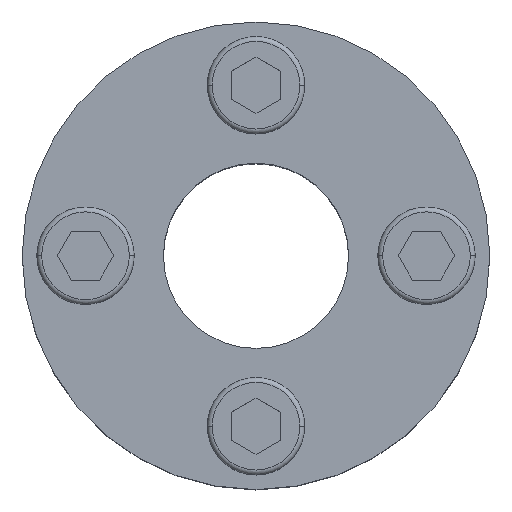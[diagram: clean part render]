
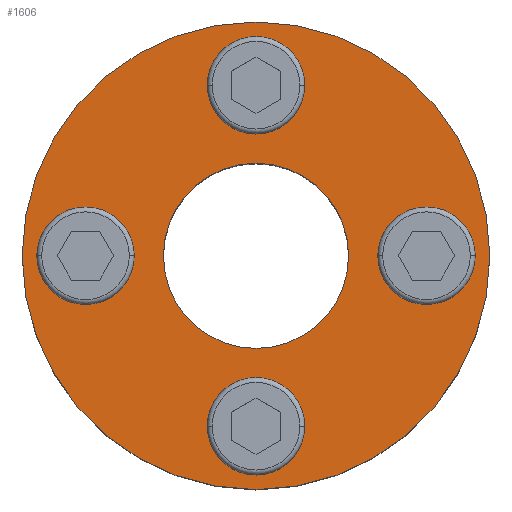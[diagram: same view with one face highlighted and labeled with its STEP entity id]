
A CAD part, top view. The second image highlights one B-rep face of the part: STEP entity #1606.
In plain terms, the highlighted planar face has unit normal (0, 0, 1).
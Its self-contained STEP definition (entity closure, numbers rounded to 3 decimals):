
#2 = EDGE_CURVE ( 'NONE', #352, #1402, #986, .T. ) ;
#6 = CARTESIAN_POINT ( 'NONE',  ( -5., -17.5, 0. ) ) ;
#9 = AXIS2_PLACEMENT_3D ( 'NONE', #1308, #792, #644 ) ;
#45 = CIRCLE ( 'NONE', #1392, 5. ) ;
#62 = EDGE_CURVE ( 'NONE', #454, #266, #965, .T. ) ;
#81 = CARTESIAN_POINT ( 'NONE',  ( 0., 17.5, 0. ) ) ;
#93 = EDGE_CURVE ( 'NONE', #474, #1383, #1274, .T. ) ;
#119 = ORIENTED_EDGE ( 'NONE', *, *, #1069, .F. ) ;
#141 = ORIENTED_EDGE ( 'NONE', *, *, #62, .F. ) ;
#144 = DIRECTION ( 'NONE',  ( -1., 0., 0. ) ) ;
#145 = DIRECTION ( 'NONE',  ( 0., 0., -1. ) ) ;
#161 = EDGE_LOOP ( 'NONE', ( #119, #303 ) ) ;
#166 = DIRECTION ( 'NONE',  ( 0., 0., 1. ) ) ;
#234 = CARTESIAN_POINT ( 'NONE',  ( 22.5, 0., 0. ) ) ;
#237 = DIRECTION ( 'NONE',  ( 0., 0., 1. ) ) ;
#259 = DIRECTION ( 'NONE',  ( 1., 0., 0. ) ) ;
#266 = VERTEX_POINT ( 'NONE', #1516 ) ;
#283 = DIRECTION ( 'NONE',  ( -1., 0., 0. ) ) ;
#293 = CARTESIAN_POINT ( 'NONE',  ( 0., 17.5, 0. ) ) ;
#295 = CARTESIAN_POINT ( 'NONE',  ( 0., 0., 0. ) ) ;
#301 = EDGE_LOOP ( 'NONE', ( #1314, #1687 ) ) ;
#303 = ORIENTED_EDGE ( 'NONE', *, *, #2, .F. ) ;
#308 = AXIS2_PLACEMENT_3D ( 'NONE', #293, #676, #581 ) ;
#352 = VERTEX_POINT ( 'NONE', #518 ) ;
#355 = EDGE_LOOP ( 'NONE', ( #723, #629 ) ) ;
#366 = AXIS2_PLACEMENT_3D ( 'NONE', #1187, #1223, #455 ) ;
#374 = VERTEX_POINT ( 'NONE', #1531 ) ;
#376 = ORIENTED_EDGE ( 'NONE', *, *, #997, .F. ) ;
#396 = EDGE_CURVE ( 'NONE', #1383, #474, #1498, .T. ) ;
#411 = VERTEX_POINT ( 'NONE', #6 ) ;
#412 = CARTESIAN_POINT ( 'NONE',  ( 0., 0., 0. ) ) ;
#424 = DIRECTION ( 'NONE',  ( 1., 0., 0. ) ) ;
#434 = FACE_BOUND ( 'NONE', #1023, .T. ) ;
#439 = CARTESIAN_POINT ( 'NONE',  ( 12.5, 0., 0. ) ) ;
#449 = DIRECTION ( 'NONE',  ( -1., 0., 0. ) ) ;
#450 = ORIENTED_EDGE ( 'NONE', *, *, #584, .F. ) ;
#452 = ORIENTED_EDGE ( 'NONE', *, *, #816, .F. ) ;
#454 = VERTEX_POINT ( 'NONE', #1058 ) ;
#455 = DIRECTION ( 'NONE',  ( 1., 0., 0. ) ) ;
#463 = AXIS2_PLACEMENT_3D ( 'NONE', #1273, #237, #874 ) ;
#469 = VERTEX_POINT ( 'NONE', #439 ) ;
#474 = VERTEX_POINT ( 'NONE', #805 ) ;
#491 = CARTESIAN_POINT ( 'NONE',  ( 5., -17.5, 0. ) ) ;
#494 = EDGE_LOOP ( 'NONE', ( #452, #376 ) ) ;
#518 = CARTESIAN_POINT ( 'NONE',  ( -12.5, 0., 0. ) ) ;
#519 = CIRCLE ( 'NONE', #463, 5. ) ;
#529 = CARTESIAN_POINT ( 'NONE',  ( 17.5, 0., 0. ) ) ;
#537 = CIRCLE ( 'NONE', #1118, 9.5 ) ;
#545 = AXIS2_PLACEMENT_3D ( 'NONE', #1575, #1294, #144 ) ;
#565 = VERTEX_POINT ( 'NONE', #234 ) ;
#581 = DIRECTION ( 'NONE',  ( -1., 0., 0. ) ) ;
#584 = EDGE_CURVE ( 'NONE', #266, #454, #715, .T. ) ;
#592 = CIRCLE ( 'NONE', #793, 5. ) ;
#629 = ORIENTED_EDGE ( 'NONE', *, *, #701, .F. ) ;
#644 = DIRECTION ( 'NONE',  ( 1., 0., 0. ) ) ;
#647 = AXIS2_PLACEMENT_3D ( 'NONE', #81, #1511, #1639 ) ;
#652 = DIRECTION ( 'NONE',  ( 0., 0., 1. ) ) ;
#676 = DIRECTION ( 'NONE',  ( 0., 0., 1. ) ) ;
#701 = EDGE_CURVE ( 'NONE', #565, #469, #1075, .T. ) ;
#715 = CIRCLE ( 'NONE', #647, 5. ) ;
#723 = ORIENTED_EDGE ( 'NONE', *, *, #807, .F. ) ;
#736 = FACE_BOUND ( 'NONE', #494, .T. ) ;
#777 = FACE_BOUND ( 'NONE', #920, .T. ) ;
#792 = DIRECTION ( 'NONE',  ( 0., 0., 1. ) ) ;
#793 = AXIS2_PLACEMENT_3D ( 'NONE', #1497, #830, #449 ) ;
#801 = CARTESIAN_POINT ( 'NONE',  ( 0., -17.5, 0. ) ) ;
#805 = CARTESIAN_POINT ( 'NONE',  ( 24., 0., 0. ) ) ;
#807 = EDGE_CURVE ( 'NONE', #469, #565, #1261, .T. ) ;
#810 = PLANE ( 'NONE',  #1527 ) ;
#816 = EDGE_CURVE ( 'NONE', #1012, #374, #1590, .T. ) ;
#830 = DIRECTION ( 'NONE',  ( 0., 0., 1. ) ) ;
#844 = AXIS2_PLACEMENT_3D ( 'NONE', #412, #652, #259 ) ;
#850 = CARTESIAN_POINT ( 'NONE',  ( -24., 0., 0. ) ) ;
#871 = FACE_OUTER_BOUND ( 'NONE', #301, .T. ) ;
#874 = DIRECTION ( 'NONE',  ( -1., 0., 0. ) ) ;
#901 = AXIS2_PLACEMENT_3D ( 'NONE', #529, #1302, #1439 ) ;
#913 = CARTESIAN_POINT ( 'NONE',  ( -9.5, 0., 0. ) ) ;
#920 = EDGE_LOOP ( 'NONE', ( #1047, #1586 ) ) ;
#928 = DIRECTION ( 'NONE',  ( 0., 0., 1. ) ) ;
#965 = CIRCLE ( 'NONE', #308, 5. ) ;
#986 = CIRCLE ( 'NONE', #545, 5. ) ;
#997 = EDGE_CURVE ( 'NONE', #374, #1012, #537, .T. ) ;
#1012 = VERTEX_POINT ( 'NONE', #1080 ) ;
#1023 = EDGE_LOOP ( 'NONE', ( #450, #141 ) ) ;
#1047 = ORIENTED_EDGE ( 'NONE', *, *, #1427, .F. ) ;
#1058 = CARTESIAN_POINT ( 'NONE',  ( 5., 17.5, 0. ) ) ;
#1069 = EDGE_CURVE ( 'NONE', #1402, #352, #592, .T. ) ;
#1075 = CIRCLE ( 'NONE', #1526, 5. ) ;
#1080 = CARTESIAN_POINT ( 'NONE',  ( 9.5, 0., 0. ) ) ;
#1118 = AXIS2_PLACEMENT_3D ( 'NONE', #295, #166, #424 ) ;
#1187 = CARTESIAN_POINT ( 'NONE',  ( 0., 0., 0. ) ) ;
#1223 = DIRECTION ( 'NONE',  ( 0., 0., 1. ) ) ;
#1242 = FACE_BOUND ( 'NONE', #355, .T. ) ;
#1261 = CIRCLE ( 'NONE', #901, 5. ) ;
#1267 = DIRECTION ( 'NONE',  ( -1., 0., 0. ) ) ;
#1273 = CARTESIAN_POINT ( 'NONE',  ( 0., -17.5, 0. ) ) ;
#1274 = CIRCLE ( 'NONE', #366, 24. ) ;
#1294 = DIRECTION ( 'NONE',  ( 0., 0., 1. ) ) ;
#1302 = DIRECTION ( 'NONE',  ( 0., 0., 1. ) ) ;
#1308 = CARTESIAN_POINT ( 'NONE',  ( 0., 0., 0. ) ) ;
#1314 = ORIENTED_EDGE ( 'NONE', *, *, #93, .T. ) ;
#1374 = CARTESIAN_POINT ( 'NONE',  ( -22.5, 0., 0. ) ) ;
#1383 = VERTEX_POINT ( 'NONE', #850 ) ;
#1392 = AXIS2_PLACEMENT_3D ( 'NONE', #801, #928, #1483 ) ;
#1402 = VERTEX_POINT ( 'NONE', #1374 ) ;
#1408 = DIRECTION ( 'NONE',  ( 0., 0., 1. ) ) ;
#1427 = EDGE_CURVE ( 'NONE', #411, #1530, #45, .T. ) ;
#1439 = DIRECTION ( 'NONE',  ( -1., 0., 0. ) ) ;
#1483 = DIRECTION ( 'NONE',  ( -1., 0., 0. ) ) ;
#1497 = CARTESIAN_POINT ( 'NONE',  ( -17.5, 0., 0. ) ) ;
#1498 = CIRCLE ( 'NONE', #844, 24. ) ;
#1511 = DIRECTION ( 'NONE',  ( 0., 0., 1. ) ) ;
#1514 = EDGE_CURVE ( 'NONE', #1530, #411, #519, .T. ) ;
#1516 = CARTESIAN_POINT ( 'NONE',  ( -5., 17.5, 0. ) ) ;
#1526 = AXIS2_PLACEMENT_3D ( 'NONE', #1551, #1408, #1267 ) ;
#1527 = AXIS2_PLACEMENT_3D ( 'NONE', #913, #145, #283 ) ;
#1530 = VERTEX_POINT ( 'NONE', #491 ) ;
#1531 = CARTESIAN_POINT ( 'NONE',  ( -9.5, 0., 0. ) ) ;
#1551 = CARTESIAN_POINT ( 'NONE',  ( 17.5, 0., 0. ) ) ;
#1575 = CARTESIAN_POINT ( 'NONE',  ( -17.5, 0., 0. ) ) ;
#1586 = ORIENTED_EDGE ( 'NONE', *, *, #1514, .F. ) ;
#1590 = CIRCLE ( 'NONE', #9, 9.5 ) ;
#1606 = ADVANCED_FACE ( 'NONE', ( #434, #1242, #777, #1637, #736, #871 ), #810, .F. ) ;
#1637 = FACE_BOUND ( 'NONE', #161, .T. ) ;
#1639 = DIRECTION ( 'NONE',  ( -1., 0., 0. ) ) ;
#1687 = ORIENTED_EDGE ( 'NONE', *, *, #396, .T. ) ;
